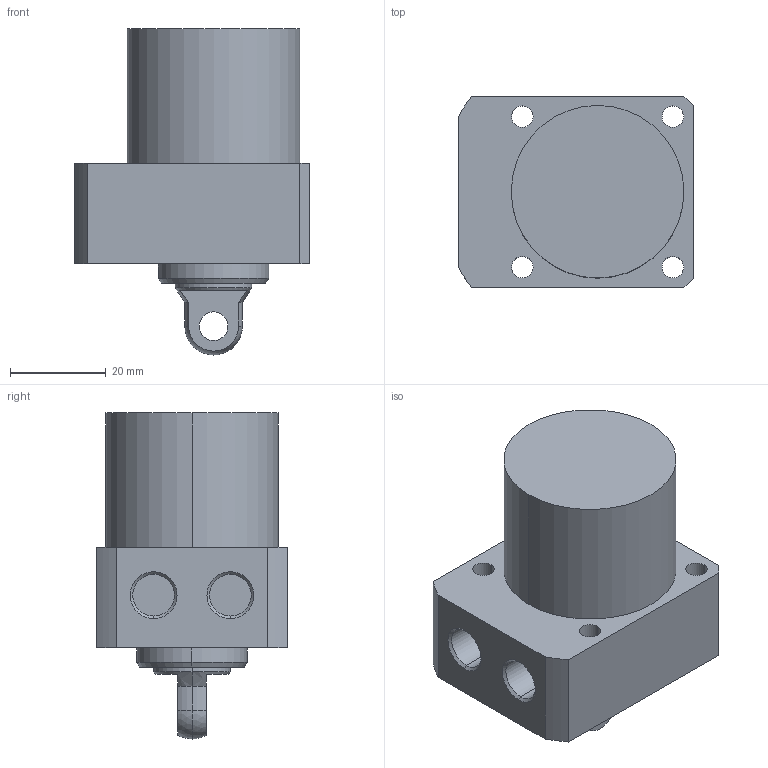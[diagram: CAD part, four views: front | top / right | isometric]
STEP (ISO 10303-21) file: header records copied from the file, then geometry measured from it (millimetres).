
FILE_DESCRIPTION (( 'STEP AP203' ), '1' );
FILE_NAME ('CLLR036-CP-20.STEP', '2017-05-10T08:56:38', ( '' ), ( '' ), 'SwSTEP 2.0', 'SolidWorks 2015', '' );
FILE_SCHEMA (( 'CONFIG_CONTROL_DESIGN' ));
Length unit declared in the file: millimetre
Products named in the file (1): CLLR036-CP-20
Bounding box: 49 x 40 x 68 mm (x, y, z)
Volume: 69045.7 mm3; surface area: 13190.6 mm2
Topology: 1 solids, 1 shells, 57 faces, 135 edges, 87 vertices
Faces by surface type: cylinder 29, plane 18, cone 8, sphere 2
Entity records: 1770 total; most frequent: DIRECTION 319, CARTESIAN_POINT 292, ORIENTED_EDGE 270, EDGE_CURVE 135, AXIS2_PLACEMENT_3D 130, VERTEX_POINT 87, EDGE_LOOP 74, CIRCLE 72
